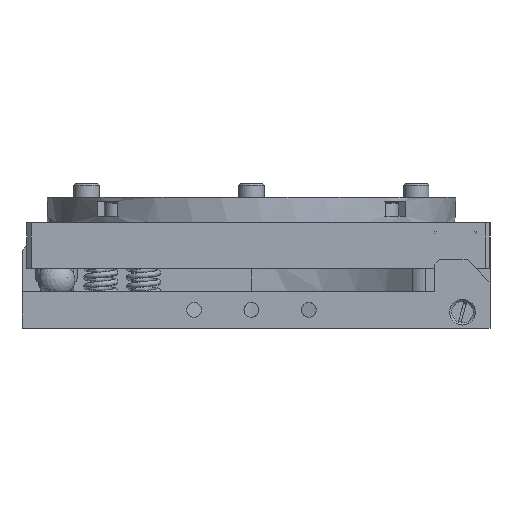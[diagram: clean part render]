
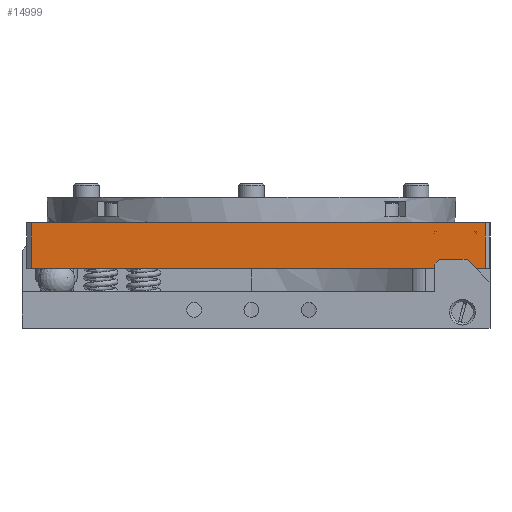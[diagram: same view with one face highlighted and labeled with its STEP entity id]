
A CAD part, front view. The second image highlights one B-rep face of the part: STEP entity #14999.
In plain terms, the highlighted planar face has unit normal (0, -1, 0).
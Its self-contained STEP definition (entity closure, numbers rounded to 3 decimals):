
#1444=LINE($,#34918,#2621);
#1447=LINE($,#34925,#2624);
#1458=LINE($,#34985,#2635);
#1501=LINE($,#35126,#2678);
#1511=LINE($,#35149,#2688);
#1518=LINE($,#35207,#2695);
#1542=LINE($,#35293,#2719);
#1543=LINE($,#35295,#2720);
#1544=LINE($,#35296,#2721);
#1545=LINE($,#35298,#2722);
#1546=LINE($,#35300,#2723);
#1547=LINE($,#35301,#2724);
#1548=LINE($,#35303,#2725);
#1549=LINE($,#35304,#2726);
#2621=VECTOR($,#18948,0.3);
#2624=VECTOR($,#18953,0.3);
#2635=VECTOR($,#18996,91.);
#2678=VECTOR($,#19129,10.);
#2688=VECTOR($,#19145,5.);
#2695=VECTOR($,#19172,0.3);
#2719=VECTOR($,#19278,10.);
#2720=VECTOR($,#19281,0.424);
#2721=VECTOR($,#19282,99.);
#2722=VECTOR($,#19283,3.1);
#2723=VECTOR($,#19284,3.);
#2724=VECTOR($,#19285,3.1);
#2725=VECTOR($,#19286,0.424);
#2726=VECTOR($,#19287,0.3);
#3325=PLANE($,#16152);
#3713=FACE_BOUND($,#5498,.T.);
#3714=FACE_BOUND($,#5499,.T.);
#3715=FACE_BOUND($,#5500,.T.);
#5498=EDGE_LOOP($,(#12857,#12858,#12859));
#5499=EDGE_LOOP($,(#12860,#12861,#12862,#12863,#12864,#12865,#12866,#12867));
#5500=EDGE_LOOP($,(#12868,#12869,#12870));
#7434=VERTEX_POINT($,#34915);
#7435=VERTEX_POINT($,#34917);
#7437=VERTEX_POINT($,#34922);
#7438=VERTEX_POINT($,#34924);
#7462=VERTEX_POINT($,#34982);
#7463=VERTEX_POINT($,#34984);
#7516=VERTEX_POINT($,#35123);
#7525=VERTEX_POINT($,#35146);
#7526=VERTEX_POINT($,#35148);
#7533=VERTEX_POINT($,#35205);
#7554=VERTEX_POINT($,#35291);
#7555=VERTEX_POINT($,#35297);
#7556=VERTEX_POINT($,#35299);
#7557=VERTEX_POINT($,#35302);
#9314=EDGE_CURVE($,#7435,#7434,#1444,.T.);
#9318=EDGE_CURVE($,#7438,#7437,#1447,.T.);
#9345=EDGE_CURVE($,#7462,#7463,#1458,.T.);
#9415=EDGE_CURVE($,#7516,#7463,#1501,.T.);
#9426=EDGE_CURVE($,#7526,#7525,#1511,.T.);
#9437=EDGE_CURVE($,#7437,#7533,#1518,.T.);
#9482=EDGE_CURVE($,#7554,#7525,#1542,.T.);
#9483=EDGE_CURVE($,#7438,#7533,#1543,.T.);
#9484=EDGE_CURVE($,#7554,#7516,#1544,.T.);
#9485=EDGE_CURVE($,#7462,#7555,#1545,.T.);
#9486=EDGE_CURVE($,#7555,#7556,#1546,.T.);
#9487=EDGE_CURVE($,#7556,#7526,#1547,.T.);
#9488=EDGE_CURVE($,#7557,#7434,#1548,.T.);
#9489=EDGE_CURVE($,#7557,#7435,#1549,.T.);
#12857=ORIENTED_EDGE($,*,*,#9318,.T.);
#12858=ORIENTED_EDGE($,*,*,#9437,.T.);
#12859=ORIENTED_EDGE($,*,*,#9483,.F.);
#12860=ORIENTED_EDGE($,*,*,#9426,.T.);
#12861=ORIENTED_EDGE($,*,*,#9482,.F.);
#12862=ORIENTED_EDGE($,*,*,#9484,.T.);
#12863=ORIENTED_EDGE($,*,*,#9415,.T.);
#12864=ORIENTED_EDGE($,*,*,#9345,.F.);
#12865=ORIENTED_EDGE($,*,*,#9485,.T.);
#12866=ORIENTED_EDGE($,*,*,#9486,.T.);
#12867=ORIENTED_EDGE($,*,*,#9487,.T.);
#12868=ORIENTED_EDGE($,*,*,#9488,.F.);
#12869=ORIENTED_EDGE($,*,*,#9489,.T.);
#12870=ORIENTED_EDGE($,*,*,#9314,.T.);
#14999=ADVANCED_FACE($,(#3713,#3714,#3715),#3325,.T.);
#16152=AXIS2_PLACEMENT_3D($,#35294,#19279,#19280);
#18948=DIRECTION($,(1.,0.,0.));
#18953=DIRECTION($,(1.,0.,0.));
#18996=DIRECTION($,(-1.,0.,0.));
#19129=DIRECTION($,(0.,0.,-1.));
#19145=DIRECTION($,(1.,0.,0.));
#19172=DIRECTION($,(0.,0.,-1.));
#19278=DIRECTION($,(0.,0.,-1.));
#19279=DIRECTION('center_axis',(0.,-1.,0.));
#19280=DIRECTION('ref_axis',(0.,0.,-1.));
#19281=DIRECTION($,(0.707,0.,-0.707));
#19282=DIRECTION($,(-1.,0.,0.));
#19283=DIRECTION($,(0.,0.,-1.));
#19284=DIRECTION($,(1.,0.,0.));
#19285=DIRECTION($,(0.,0.,1.));
#19286=DIRECTION($,(0.707,0.,0.707));
#19287=DIRECTION($,(0.,0.,1.));
#34915=CARTESIAN_POINT('',(32.07,-39.028,21.));
#34917=CARTESIAN_POINT('',(31.77,-39.028,21.));
#34918=CARTESIAN_POINT($,(42.27,-39.028,21.));
#34922=CARTESIAN_POINT('',(40.77,-39.028,21.));
#34924=CARTESIAN_POINT('',(40.47,-39.028,21.));
#34925=CARTESIAN_POINT($,(42.27,-39.028,21.));
#34982=CARTESIAN_POINT('',(34.77,-39.028,13.));
#34984=CARTESIAN_POINT('',(-56.23,-39.028,13.));
#34985=CARTESIAN_POINT($,(43.77,-39.028,13.));
#35123=CARTESIAN_POINT('',(-56.23,-39.028,23.));
#35126=CARTESIAN_POINT($,(-56.23,-39.028,13.));
#35146=CARTESIAN_POINT('',(42.77,-39.028,13.));
#35148=CARTESIAN_POINT('',(37.77,-39.028,13.));
#35149=CARTESIAN_POINT($,(36.27,-39.028,13.));
#35205=CARTESIAN_POINT('',(40.77,-39.028,20.7));
#35207=CARTESIAN_POINT($,(40.77,-39.028,7.915));
#35291=CARTESIAN_POINT('',(42.77,-39.028,23.));
#35293=CARTESIAN_POINT($,(42.77,-39.028,13.));
#35294=CARTESIAN_POINT('Origin',(43.77,-39.028,13.));
#35295=CARTESIAN_POINT($,(41.145,-39.028,20.325));
#35296=CARTESIAN_POINT($,(43.77,-39.028,23.));
#35297=CARTESIAN_POINT('',(34.77,-39.028,9.9));
#35298=CARTESIAN_POINT($,(34.77,-39.028,9.9));
#35299=CARTESIAN_POINT('',(37.77,-39.028,9.9));
#35300=CARTESIAN_POINT($,(31.77,-39.028,9.9));
#35301=CARTESIAN_POINT($,(37.77,-39.028,11.45));
#35302=CARTESIAN_POINT('',(31.77,-39.028,20.7));
#35303=CARTESIAN_POINT($,(29.145,-39.028,18.075));
#35304=CARTESIAN_POINT($,(31.77,-39.028,17.));
